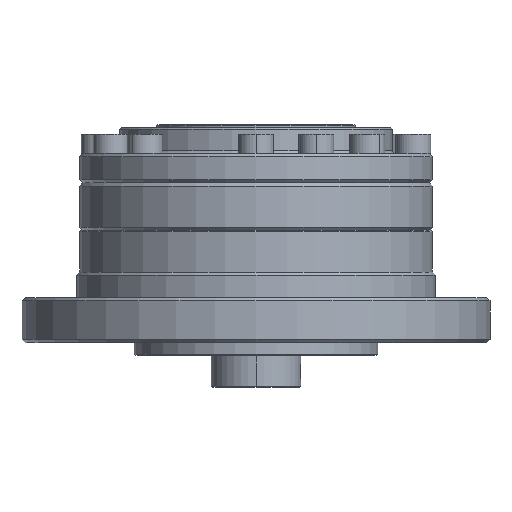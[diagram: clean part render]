
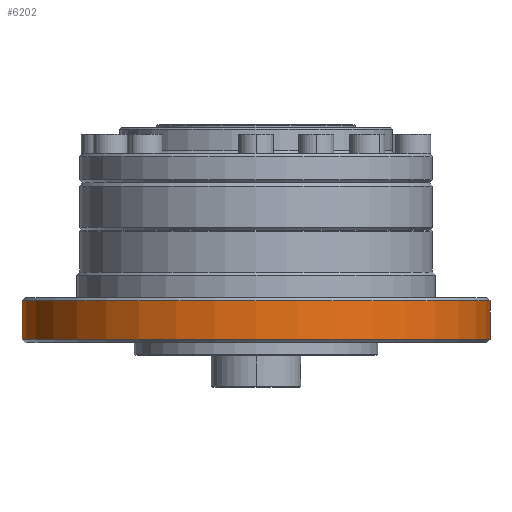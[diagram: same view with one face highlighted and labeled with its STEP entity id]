
A CAD part, front view. The second image highlights one B-rep face of the part: STEP entity #6202.
In plain terms, the highlighted cylindrical face has radius 36.5 mm (diameter 73 mm), a partial arc.
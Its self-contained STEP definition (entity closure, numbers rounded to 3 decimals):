
#3793 = DIRECTION ( 'NONE',  ( 0., 0., 1. ) ) ;
#3983 = EDGE_LOOP ( 'NONE', ( #8345, #14216, #10812, #19918 ) ) ;
#4598 = CARTESIAN_POINT ( 'NONE',  ( 0., 0., 29.512 ) ) ;
#6036 = CARTESIAN_POINT ( 'NONE',  ( -36.5, 0., 8.5 ) ) ;
#6139 = CARTESIAN_POINT ( 'NONE',  ( -36.5, 0., 29.512 ) ) ;
#6202 = ADVANCED_FACE ( 'NONE', ( #28957 ), #21778, .T. ) ;
#7957 = EDGE_CURVE ( 'NONE', #18507, #10046, #29568, .T. ) ;
#8345 = ORIENTED_EDGE ( 'NONE', *, *, #27045, .F. ) ;
#8752 = AXIS2_PLACEMENT_3D ( 'NONE', #9492, #26283, #11898 ) ;
#9434 = DIRECTION ( 'NONE',  ( 0., 0., 1. ) ) ;
#9489 = CARTESIAN_POINT ( 'NONE',  ( 36.5, 0., 29.512 ) ) ;
#9492 = CARTESIAN_POINT ( 'NONE',  ( 0., 0., 8.5 ) ) ;
#9701 = CIRCLE ( 'NONE', #27597, 36.5 ) ;
#10046 = VERTEX_POINT ( 'NONE', #28100 ) ;
#10812 = ORIENTED_EDGE ( 'NONE', *, *, #7957, .T. ) ;
#11898 = DIRECTION ( 'NONE',  ( -1., 0., 0. ) ) ;
#13500 = CARTESIAN_POINT ( 'NONE',  ( 0., 0., 2.5 ) ) ;
#14216 = ORIENTED_EDGE ( 'NONE', *, *, #15109, .T. ) ;
#14976 = VERTEX_POINT ( 'NONE', #22449 ) ;
#15109 = EDGE_CURVE ( 'NONE', #14976, #18507, #9701, .T. ) ;
#15625 = VECTOR ( 'NONE', #3793, 1000. ) ;
#15927 = DIRECTION ( 'NONE',  ( 1., 0., 0. ) ) ;
#16555 = DIRECTION ( 'NONE',  ( 1., 0., 0. ) ) ;
#18507 = VERTEX_POINT ( 'NONE', #23781 ) ;
#19918 = ORIENTED_EDGE ( 'NONE', *, *, #19962, .T. ) ;
#19962 = EDGE_CURVE ( 'NONE', #10046, #26988, #23709, .T. ) ;
#20322 = AXIS2_PLACEMENT_3D ( 'NONE', #4598, #9434, #16555 ) ;
#21778 = CYLINDRICAL_SURFACE ( 'NONE', #20322, 36.5 ) ;
#22025 = LINE ( 'NONE', #6139, #15625 ) ;
#22449 = CARTESIAN_POINT ( 'NONE',  ( -36.5, 0., 2.5 ) ) ;
#23131 = VECTOR ( 'NONE', #23861, 1000. ) ;
#23709 = CIRCLE ( 'NONE', #8752, 36.5 ) ;
#23781 = CARTESIAN_POINT ( 'NONE',  ( 36.5, 0., 2.5 ) ) ;
#23861 = DIRECTION ( 'NONE',  ( 0., 0., 1. ) ) ;
#26283 = DIRECTION ( 'NONE',  ( 0., 0., -1. ) ) ;
#26988 = VERTEX_POINT ( 'NONE', #6036 ) ;
#27045 = EDGE_CURVE ( 'NONE', #14976, #26988, #22025, .T. ) ;
#27597 = AXIS2_PLACEMENT_3D ( 'NONE', #13500, #30344, #15927 ) ;
#28100 = CARTESIAN_POINT ( 'NONE',  ( 36.5, 0., 8.5 ) ) ;
#28957 = FACE_OUTER_BOUND ( 'NONE', #3983, .T. ) ;
#29568 = LINE ( 'NONE', #9489, #23131 ) ;
#30344 = DIRECTION ( 'NONE',  ( 0., 0., 1. ) ) ;
